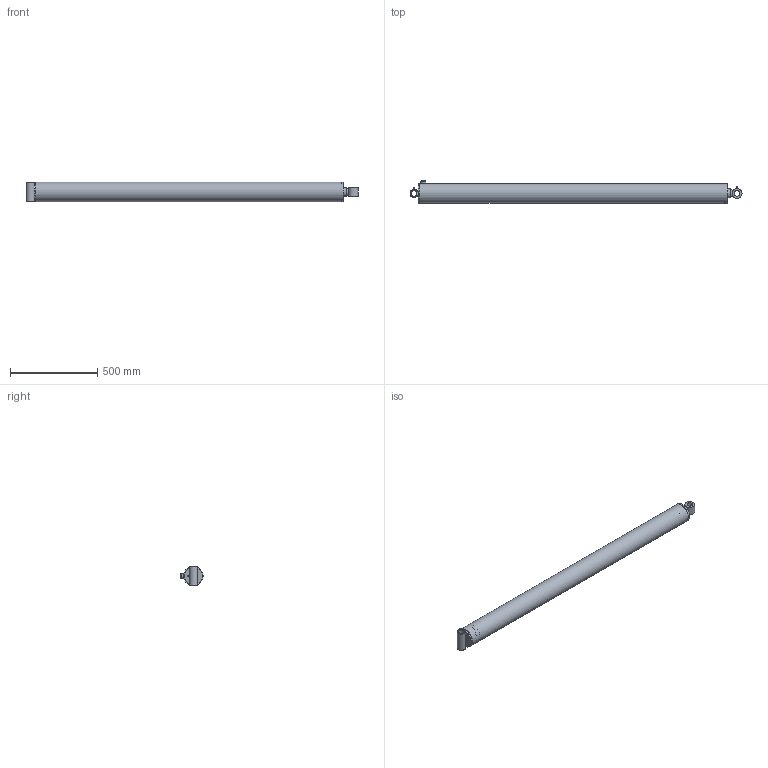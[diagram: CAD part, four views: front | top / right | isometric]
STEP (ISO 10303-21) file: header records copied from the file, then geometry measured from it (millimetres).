
FILE_DESCRIPTION(/* description */ (''),/* implementation_level */ '2;1');
FILE_NAME(/* name */ '\\SRVR-ENG\EngSales\Cylinders\PMC-5664.stp',/* time_stamp */ '2014-08-04T08:26:15-05:00',/* author */ ('KneiflD'),/* organization */ ('PRINCE MANUFACTURING'),/* preprocessor_version */ 'ST-DEVELOPER v15.2',/* originating_system */ 'Autodesk Inventor 2014',/* authorisation */ '0 in^3');
FILE_SCHEMA (('AUTOMOTIVE_DESIGN { 1 0 10303 214 3 1 1 }'));
Length unit declared in the file: inch
Products named in the file (17): 0519PMC-5664; 161900081V; 200014404V; 210600086V; 0619PMC-5664; 011100PMC-5664; 210600347V; 021100PMC-5664; 071900019; 081900451V; 220000212V; 230001400V; 200018003V; 270010002V; 270010020V; 250001329V; PMC-5664
Bounding box: 1906.57 x 127 x 114.3 mm (x, y, z)
Volume: 7305315.5 mm3; surface area: 1655135.1 mm2
Topology: 15 solids, 15 shells, 229 faces, 457 edges, 275 vertices
Faces by surface type: plane 96, cylinder 55, cone 35, torus 34, bspline 7, sphere 2
Full cylindrical faces by diameter (mm): 1.524 x2, 3.175 x2, 6.074 x1, 8.839 x2, 9.08 x1, 12.7 x1, 17.462 x1, 17.475 x1, 23.812 x1, 28.575 x1, 29.972 x1, 31.699 x1, 31.826 x1, 32.258 x1, 32.385 x1, 34.315 x1, 47.625 x1, 50.8 x2, 50.876 x2, 54.61 x1, 57.15 x1, 58.725 x2, 60.325 x1, 60.452 x1, 63.5 x1, 80.95 x1, 91.592 x1, 92.151 x1, 92.964 x1, 95.25 x1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
Entity records: 6069 total; most frequent: CARTESIAN_POINT 1819, DIRECTION 899, ORIENTED_EDGE 606, AXIS2_PLACEMENT_3D 417, EDGE_LOOP 368, EDGE_CURVE 303, VERTEX_POINT 245, ADVANCED_FACE 212
